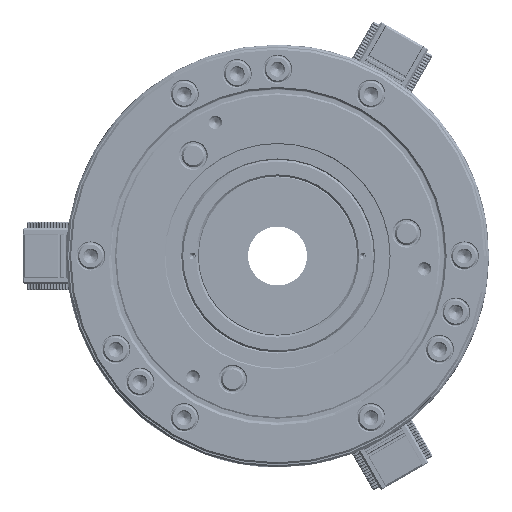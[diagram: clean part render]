
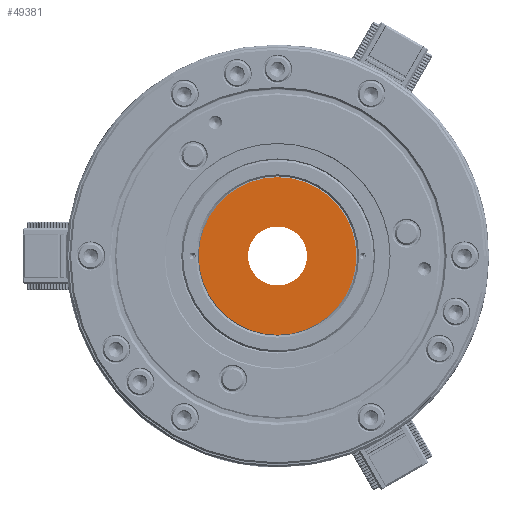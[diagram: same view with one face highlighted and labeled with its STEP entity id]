
A CAD part, left-side view. The second image highlights one B-rep face of the part: STEP entity #49381.
In plain terms, the highlighted planar face has unit normal (-1, 0, 0).
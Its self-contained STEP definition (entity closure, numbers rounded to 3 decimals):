
#15794 = DIRECTION ( 'NONE',  ( 0., 0., 1. ) ) ;
#18129 = DIRECTION ( 'NONE',  ( -1., 0., 0. ) ) ;
#35576 = AXIS2_PLACEMENT_3D ( 'NONE', #209583, #77331, #90829 ) ;
#49381 = ADVANCED_FACE ( 'NONE', ( #50405, #152167 ), #236516, .F. ) ;
#50405 = FACE_BOUND ( 'NONE', #54236, .T. ) ;
#54236 = EDGE_LOOP ( 'NONE', ( #95888, #96269 ) ) ;
#56002 = CARTESIAN_POINT ( 'NONE',  ( -25., 0., 0. ) ) ;
#57603 = DIRECTION ( 'NONE',  ( 0., 0., 1. ) ) ;
#60778 = CARTESIAN_POINT ( 'NONE',  ( -25., 0., 0. ) ) ;
#68424 = ORIENTED_EDGE ( 'NONE', *, *, #211683, .T. ) ;
#73312 = CARTESIAN_POINT ( 'NONE',  ( -25., 0., 0. ) ) ;
#74513 = CARTESIAN_POINT ( 'NONE',  ( -25., 0., 0. ) ) ;
#76625 = AXIS2_PLACEMENT_3D ( 'NONE', #60778, #156086, #99929 ) ;
#77331 = DIRECTION ( 'NONE',  ( 1., 0., 0. ) ) ;
#90829 = DIRECTION ( 'NONE',  ( 0., 0., -1. ) ) ;
#94335 = VERTEX_POINT ( 'NONE', #226609 ) ;
#95888 = ORIENTED_EDGE ( 'NONE', *, *, #134321, .F. ) ;
#96269 = ORIENTED_EDGE ( 'NONE', *, *, #195362, .F. ) ;
#99929 = DIRECTION ( 'NONE',  ( 0., 0., 1. ) ) ;
#112477 = DIRECTION ( 'NONE',  ( -1., 0., 0. ) ) ;
#118052 = CIRCLE ( 'NONE', #222123, 15. ) ;
#130685 = CARTESIAN_POINT ( 'NONE',  ( -25., 0., -40.1 ) ) ;
#134321 = EDGE_CURVE ( 'NONE', #182140, #94335, #221330, .T. ) ;
#142193 = AXIS2_PLACEMENT_3D ( 'NONE', #74513, #194564, #15794 ) ;
#144430 = EDGE_LOOP ( 'NONE', ( #160404, #68424 ) ) ;
#152167 = FACE_OUTER_BOUND ( 'NONE', #144430, .T. ) ;
#156086 = DIRECTION ( 'NONE',  ( -1., 0., 0. ) ) ;
#160404 = ORIENTED_EDGE ( 'NONE', *, *, #199365, .T. ) ;
#175427 = AXIS2_PLACEMENT_3D ( 'NONE', #56002, #18129, #256880 ) ;
#182140 = VERTEX_POINT ( 'NONE', #242120 ) ;
#185059 = CIRCLE ( 'NONE', #76625, 40.1 ) ;
#187694 = CARTESIAN_POINT ( 'NONE',  ( -25., 0., 40.1 ) ) ;
#194564 = DIRECTION ( 'NONE',  ( -1., 0., 0. ) ) ;
#195362 = EDGE_CURVE ( 'NONE', #94335, #182140, #118052, .T. ) ;
#199365 = EDGE_CURVE ( 'NONE', #239671, #220792, #185059, .T. ) ;
#209583 = CARTESIAN_POINT ( 'NONE',  ( -25., 40.1, 0. ) ) ;
#211683 = EDGE_CURVE ( 'NONE', #220792, #239671, #220665, .T. ) ;
#220665 = CIRCLE ( 'NONE', #175427, 40.1 ) ;
#220792 = VERTEX_POINT ( 'NONE', #187694 ) ;
#221330 = CIRCLE ( 'NONE', #142193, 15. ) ;
#222123 = AXIS2_PLACEMENT_3D ( 'NONE', #73312, #112477, #57603 ) ;
#226609 = CARTESIAN_POINT ( 'NONE',  ( -25., 0., -15. ) ) ;
#236516 = PLANE ( 'NONE',  #35576 ) ;
#239671 = VERTEX_POINT ( 'NONE', #130685 ) ;
#242120 = CARTESIAN_POINT ( 'NONE',  ( -25., 0., 15. ) ) ;
#256880 = DIRECTION ( 'NONE',  ( 0., 0., 1. ) ) ;
